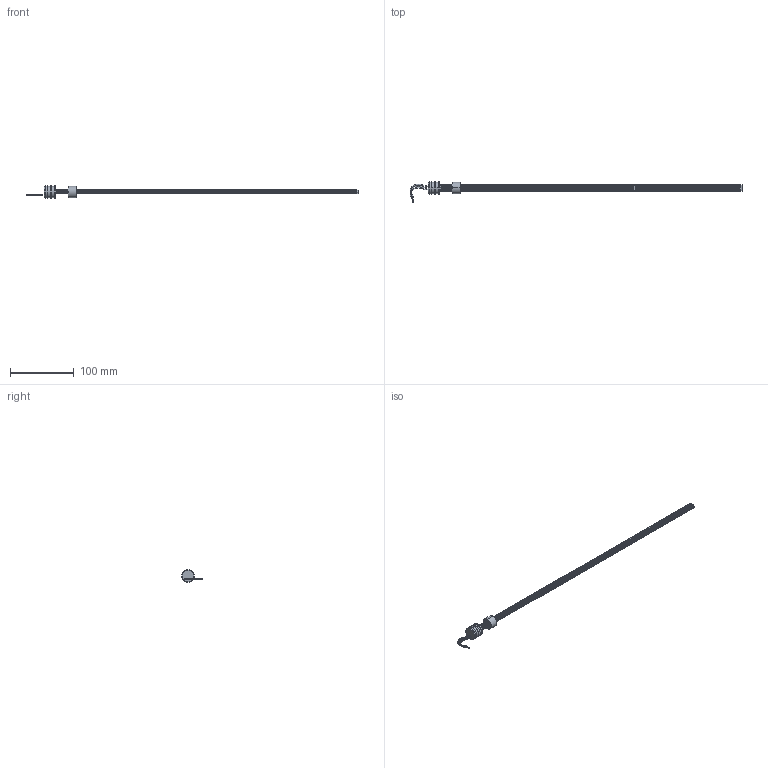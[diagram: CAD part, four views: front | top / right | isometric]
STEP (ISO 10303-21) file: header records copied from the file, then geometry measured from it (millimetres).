
FILE_DESCRIPTION (( 'STEP AP203' ), '1' );
FILE_NAME ('PS6509-regal.step', '2009-04-08T07:06:51', ( 'Gustaf Hederström' ), ( 'Cevican AB' ), 'SwSTEP 2.0', 'SolidWorks 2002308', '' );
FILE_SCHEMA (( 'CONFIG_CONTROL_DESIGN' ));
Length unit declared in the file: millimetre
Products named in the file (4): PS6509-regal; 30-0027_SW0001_6509; 30-0027_SW0001_6509_2; WIPER6500-8
Assembly tree (3 placements, depth 2):
  PS6509-regal
    30-0027_SW0001_6509_2
    WIPER6500-8
    30-0027_SW0001_6509
Bounding box: 519.62 x 32.31 x 19.7 mm (x, y, z)
Volume: 29841.2 mm3; surface area: 20348.2 mm2
Topology: 3 solids, 3 shells, 206 faces, 556 edges, 356 vertices
Faces by surface type: plane 91, cylinder 76, bspline 35, cone 4
Entity records: 8177 total; most frequent: CARTESIAN_POINT 2597, ORIENTED_EDGE 1112, DIRECTION 1072, EDGE_CURVE 556, AXIS2_PLACEMENT_3D 387, VERTEX_POINT 356, LINE 298, VECTOR 298
